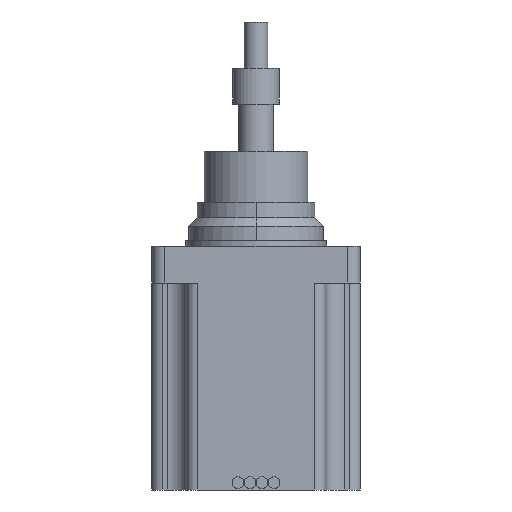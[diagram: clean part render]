
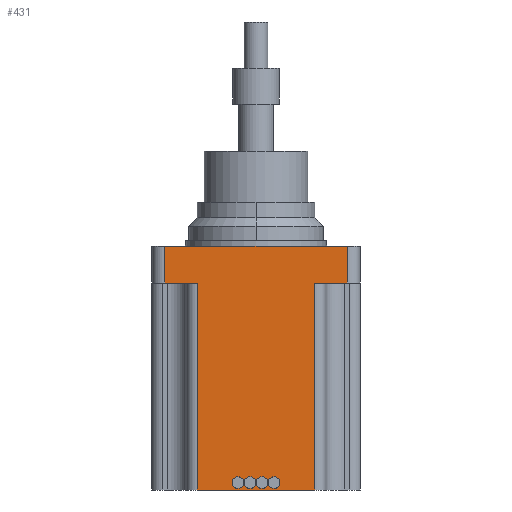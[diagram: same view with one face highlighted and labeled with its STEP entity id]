
A CAD part, front view. The second image highlights one B-rep face of the part: STEP entity #431.
In plain terms, the highlighted planar face has unit normal (0, -1, 0).
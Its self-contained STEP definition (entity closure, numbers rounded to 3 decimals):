
#7 = PLANE ( 'NONE',  #2043 ) ;
#23 = ORIENTED_EDGE ( 'NONE', *, *, #1718, .T. ) ;
#33 = DIRECTION ( 'NONE',  ( 0., 0., 1. ) ) ;
#67 = DIRECTION ( 'NONE',  ( 0., 0., -1. ) ) ;
#82 = LINE ( 'NONE', #100, #3678 ) ;
#95 = DIRECTION ( 'NONE',  ( 1., 0., 0. ) ) ;
#100 = CARTESIAN_POINT ( 'NONE',  ( -28.2, -28.2, -66. ) ) ;
#108 = CIRCLE ( 'NONE', #3599, 1.587 ) ;
#112 = ORIENTED_EDGE ( 'NONE', *, *, #1697, .T. ) ;
#119 = DIRECTION ( 'NONE',  ( 0., 0., -1. ) ) ;
#177 = LINE ( 'NONE', #3095, #434 ) ;
#196 = CIRCLE ( 'NONE', #3569, 1.587 ) ;
#198 = EDGE_CURVE ( 'NONE', #2934, #3310, #2279, .T. ) ;
#202 = CARTESIAN_POINT ( 'NONE',  ( -1.625, -28.2, -65.587 ) ) ;
#266 = DIRECTION ( 'NONE',  ( 0., -1., 0. ) ) ;
#282 = CARTESIAN_POINT ( 'NONE',  ( -15.904, -28.2, -66. ) ) ;
#283 = ORIENTED_EDGE ( 'NONE', *, *, #3450, .F. ) ;
#314 = EDGE_CURVE ( 'NONE', #2446, #2221, #108, .T. ) ;
#367 = LINE ( 'NONE', #1553, #2604 ) ;
#431 = ADVANCED_FACE ( 'NONE', ( #901, #2715, #2467, #1214, #2683 ), #7, .T. ) ;
#434 = VECTOR ( 'NONE', #1366, 1000. ) ;
#448 = VERTEX_POINT ( 'NONE', #668 ) ;
#511 = CARTESIAN_POINT ( 'NONE',  ( 4.875, -28.2, -64. ) ) ;
#571 = ORIENTED_EDGE ( 'NONE', *, *, #904, .T. ) ;
#577 = ORIENTED_EDGE ( 'NONE', *, *, #1623, .T. ) ;
#599 = AXIS2_PLACEMENT_3D ( 'NONE', #1356, #3106, #2569 ) ;
#618 = LINE ( 'NONE', #932, #1915 ) ;
#627 = ORIENTED_EDGE ( 'NONE', *, *, #1914, .F. ) ;
#636 = LINE ( 'NONE', #2399, #2919 ) ;
#645 = DIRECTION ( 'NONE',  ( 0., -1., 0. ) ) ;
#652 = ORIENTED_EDGE ( 'NONE', *, *, #2362, .F. ) ;
#653 = CIRCLE ( 'NONE', #1157, 1.588 ) ;
#668 = CARTESIAN_POINT ( 'NONE',  ( 24.7, -28.2, -10. ) ) ;
#685 = VERTEX_POINT ( 'NONE', #2710 ) ;
#697 = CARTESIAN_POINT ( 'NONE',  ( -15.904, -28.2, -66. ) ) ;
#724 = EDGE_LOOP ( 'NONE', ( #2777, #2635 ) ) ;
#813 = EDGE_CURVE ( 'NONE', #1468, #1704, #653, .T. ) ;
#823 = CARTESIAN_POINT ( 'NONE',  ( 1.625, -28.2, -62.413 ) ) ;
#825 = VERTEX_POINT ( 'NONE', #2690 ) ;
#837 = CARTESIAN_POINT ( 'NONE',  ( -15.904, -28.2, -10. ) ) ;
#887 = EDGE_CURVE ( 'NONE', #2238, #1668, #618, .T. ) ;
#901 = FACE_BOUND ( 'NONE', #3277, .T. ) ;
#904 = EDGE_CURVE ( 'NONE', #1418, #3668, #3076, .T. ) ;
#932 = CARTESIAN_POINT ( 'NONE',  ( 15.904, -28.2, -10. ) ) ;
#947 = DIRECTION ( 'NONE',  ( 0., -1., 0. ) ) ;
#992 = LINE ( 'NONE', #2185, #1109 ) ;
#999 = AXIS2_PLACEMENT_3D ( 'NONE', #1516, #947, #1554 ) ;
#1006 = EDGE_CURVE ( 'NONE', #1704, #1468, #2348, .T. ) ;
#1109 = VECTOR ( 'NONE', #119, 1000. ) ;
#1157 = AXIS2_PLACEMENT_3D ( 'NONE', #2397, #2052, #2442 ) ;
#1179 = ORIENTED_EDGE ( 'NONE', *, *, #1504, .F. ) ;
#1214 = FACE_BOUND ( 'NONE', #2526, .T. ) ;
#1321 = CARTESIAN_POINT ( 'NONE',  ( -4.875, -28.2, -62.413 ) ) ;
#1346 = CARTESIAN_POINT ( 'NONE',  ( 24.7, -28.2, 0. ) ) ;
#1348 = CARTESIAN_POINT ( 'NONE',  ( 4.875, -28.2, -65.588 ) ) ;
#1356 = CARTESIAN_POINT ( 'NONE',  ( -4.875, -28.2, -64. ) ) ;
#1364 = DIRECTION ( 'NONE',  ( 0., 0., -1. ) ) ;
#1366 = DIRECTION ( 'NONE',  ( -1., 0., 0. ) ) ;
#1401 = CARTESIAN_POINT ( 'NONE',  ( -4.875, -28.2, -65.588 ) ) ;
#1411 = VERTEX_POINT ( 'NONE', #202 ) ;
#1418 = VERTEX_POINT ( 'NONE', #837 ) ;
#1468 = VERTEX_POINT ( 'NONE', #823 ) ;
#1475 = DIRECTION ( 'NONE',  ( 0., 0., -1. ) ) ;
#1504 = EDGE_CURVE ( 'NONE', #2221, #2446, #2424, .T. ) ;
#1516 = CARTESIAN_POINT ( 'NONE',  ( -1.625, -28.2, -64. ) ) ;
#1553 = CARTESIAN_POINT ( 'NONE',  ( -28.2, -28.2, 0. ) ) ;
#1554 = DIRECTION ( 'NONE',  ( 0., 0., -1. ) ) ;
#1570 = EDGE_LOOP ( 'NONE', ( #1860, #1179 ) ) ;
#1623 = EDGE_CURVE ( 'NONE', #448, #2347, #636, .T. ) ;
#1625 = CARTESIAN_POINT ( 'NONE',  ( -1.625, -28.2, -64. ) ) ;
#1658 = AXIS2_PLACEMENT_3D ( 'NONE', #3781, #2898, #1364 ) ;
#1668 = VERTEX_POINT ( 'NONE', #2110 ) ;
#1697 = EDGE_CURVE ( 'NONE', #3668, #2238, #82, .T. ) ;
#1704 = VERTEX_POINT ( 'NONE', #2787 ) ;
#1707 = CARTESIAN_POINT ( 'NONE',  ( 4.875, -28.2, -64. ) ) ;
#1718 = EDGE_CURVE ( 'NONE', #825, #3527, #992, .T. ) ;
#1751 = CARTESIAN_POINT ( 'NONE',  ( 28.2, -28.2, -10. ) ) ;
#1756 = CARTESIAN_POINT ( 'NONE',  ( 4.875, -28.2, -62.413 ) ) ;
#1860 = ORIENTED_EDGE ( 'NONE', *, *, #314, .F. ) ;
#1865 = EDGE_LOOP ( 'NONE', ( #652, #571, #112, #2470, #2513, #577, #627, #23 ) ) ;
#1909 = DIRECTION ( 'NONE',  ( 0., 0., -1. ) ) ;
#1914 = EDGE_CURVE ( 'NONE', #825, #2347, #367, .T. ) ;
#1915 = VECTOR ( 'NONE', #33, 1000. ) ;
#1924 = AXIS2_PLACEMENT_3D ( 'NONE', #511, #2608, #2867 ) ;
#1968 = CARTESIAN_POINT ( 'NONE',  ( 15.904, -28.2, -66. ) ) ;
#2002 = ORIENTED_EDGE ( 'NONE', *, *, #813, .F. ) ;
#2011 = ORIENTED_EDGE ( 'NONE', *, *, #1006, .F. ) ;
#2043 = AXIS2_PLACEMENT_3D ( 'NONE', #3335, #645, #67 ) ;
#2052 = DIRECTION ( 'NONE',  ( 0., -1., 0. ) ) ;
#2110 = CARTESIAN_POINT ( 'NONE',  ( 15.904, -28.2, -10. ) ) ;
#2131 = VECTOR ( 'NONE', #3209, 1000. ) ;
#2185 = CARTESIAN_POINT ( 'NONE',  ( -24.7, -28.2, -66. ) ) ;
#2221 = VERTEX_POINT ( 'NONE', #1348 ) ;
#2238 = VERTEX_POINT ( 'NONE', #1968 ) ;
#2279 = CIRCLE ( 'NONE', #599, 1.588 ) ;
#2347 = VERTEX_POINT ( 'NONE', #1346 ) ;
#2348 = CIRCLE ( 'NONE', #1658, 1.588 ) ;
#2362 = EDGE_CURVE ( 'NONE', #1418, #3527, #177, .T. ) ;
#2397 = CARTESIAN_POINT ( 'NONE',  ( 1.625, -28.2, -64. ) ) ;
#2399 = CARTESIAN_POINT ( 'NONE',  ( 24.7, -28.2, -66. ) ) ;
#2424 = CIRCLE ( 'NONE', #1924, 1.587 ) ;
#2442 = DIRECTION ( 'NONE',  ( 0., 0., -1. ) ) ;
#2446 = VERTEX_POINT ( 'NONE', #1756 ) ;
#2459 = DIRECTION ( 'NONE',  ( 1., 0., 0. ) ) ;
#2467 = FACE_OUTER_BOUND ( 'NONE', #1865, .T. ) ;
#2470 = ORIENTED_EDGE ( 'NONE', *, *, #887, .T. ) ;
#2513 = ORIENTED_EDGE ( 'NONE', *, *, #3683, .F. ) ;
#2526 = EDGE_LOOP ( 'NONE', ( #3584, #283 ) ) ;
#2569 = DIRECTION ( 'NONE',  ( 0., 0., -1. ) ) ;
#2604 = VECTOR ( 'NONE', #95, 1000. ) ;
#2608 = DIRECTION ( 'NONE',  ( 0., -1., 0. ) ) ;
#2635 = ORIENTED_EDGE ( 'NONE', *, *, #3725, .F. ) ;
#2639 = LINE ( 'NONE', #1751, #2131 ) ;
#2683 = FACE_BOUND ( 'NONE', #1570, .T. ) ;
#2686 = AXIS2_PLACEMENT_3D ( 'NONE', #3839, #2879, #1475 ) ;
#2690 = CARTESIAN_POINT ( 'NONE',  ( -24.7, -28.2, 0. ) ) ;
#2710 = CARTESIAN_POINT ( 'NONE',  ( -1.625, -28.2, -62.413 ) ) ;
#2715 = FACE_BOUND ( 'NONE', #724, .T. ) ;
#2777 = ORIENTED_EDGE ( 'NONE', *, *, #198, .F. ) ;
#2787 = CARTESIAN_POINT ( 'NONE',  ( 1.625, -28.2, -65.588 ) ) ;
#2867 = DIRECTION ( 'NONE',  ( 0., 0., -1. ) ) ;
#2868 = CIRCLE ( 'NONE', #999, 1.587 ) ;
#2879 = DIRECTION ( 'NONE',  ( 0., -1., 0. ) ) ;
#2898 = DIRECTION ( 'NONE',  ( 0., -1., 0. ) ) ;
#2919 = VECTOR ( 'NONE', #3344, 1000. ) ;
#2934 = VERTEX_POINT ( 'NONE', #1321 ) ;
#2954 = DIRECTION ( 'NONE',  ( 0., 0., -1. ) ) ;
#2985 = EDGE_CURVE ( 'NONE', #685, #1411, #196, .T. ) ;
#3023 = CARTESIAN_POINT ( 'NONE',  ( -24.7, -28.2, -10. ) ) ;
#3076 = LINE ( 'NONE', #697, #3598 ) ;
#3085 = DIRECTION ( 'NONE',  ( 0., -1., 0. ) ) ;
#3095 = CARTESIAN_POINT ( 'NONE',  ( -28.2, -28.2, -10. ) ) ;
#3102 = DIRECTION ( 'NONE',  ( 0., 0., -1. ) ) ;
#3106 = DIRECTION ( 'NONE',  ( 0., -1., 0. ) ) ;
#3209 = DIRECTION ( 'NONE',  ( -1., 0., 0. ) ) ;
#3277 = EDGE_LOOP ( 'NONE', ( #2002, #2011 ) ) ;
#3310 = VERTEX_POINT ( 'NONE', #1401 ) ;
#3335 = CARTESIAN_POINT ( 'NONE',  ( -28.2, -28.2, -66. ) ) ;
#3344 = DIRECTION ( 'NONE',  ( 0., 0., 1. ) ) ;
#3450 = EDGE_CURVE ( 'NONE', #1411, #685, #2868, .T. ) ;
#3527 = VERTEX_POINT ( 'NONE', #3023 ) ;
#3569 = AXIS2_PLACEMENT_3D ( 'NONE', #1625, #3085, #3102 ) ;
#3584 = ORIENTED_EDGE ( 'NONE', *, *, #2985, .F. ) ;
#3598 = VECTOR ( 'NONE', #1909, 1000. ) ;
#3599 = AXIS2_PLACEMENT_3D ( 'NONE', #1707, #266, #2954 ) ;
#3668 = VERTEX_POINT ( 'NONE', #282 ) ;
#3678 = VECTOR ( 'NONE', #2459, 1000. ) ;
#3683 = EDGE_CURVE ( 'NONE', #448, #1668, #2639, .T. ) ;
#3725 = EDGE_CURVE ( 'NONE', #3310, #2934, #3814, .T. ) ;
#3781 = CARTESIAN_POINT ( 'NONE',  ( 1.625, -28.2, -64. ) ) ;
#3814 = CIRCLE ( 'NONE', #2686, 1.588 ) ;
#3839 = CARTESIAN_POINT ( 'NONE',  ( -4.875, -28.2, -64. ) ) ;
